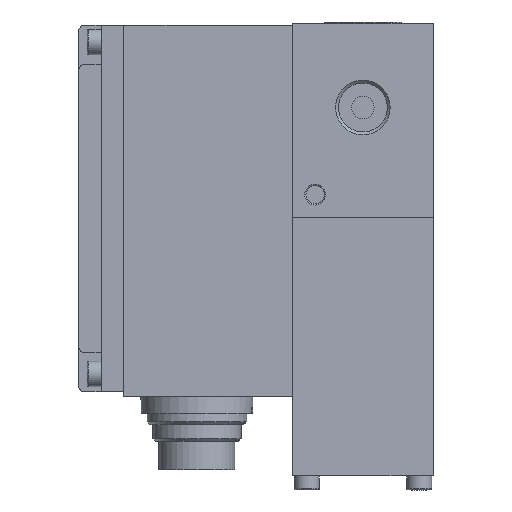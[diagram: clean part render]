
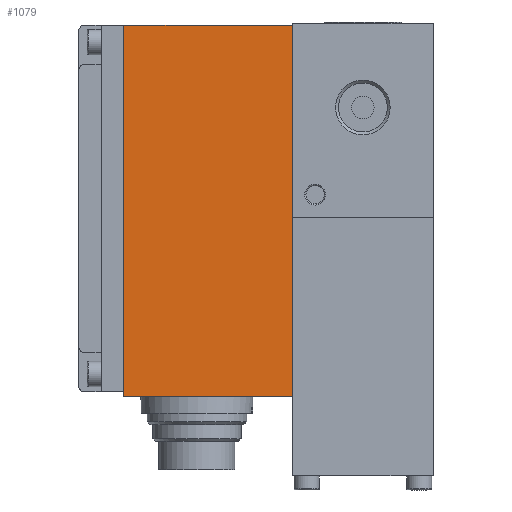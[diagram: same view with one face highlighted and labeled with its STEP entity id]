
A CAD part, left-side view. The second image highlights one B-rep face of the part: STEP entity #1079.
In plain terms, the highlighted planar face has unit normal (-1, 0, 0).
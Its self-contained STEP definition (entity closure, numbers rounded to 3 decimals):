
#1001=CARTESIAN_POINT('',(-17.5,30.0,-66.0));
#1002=VERTEX_POINT('',#1001);
#1009=CARTESIAN_POINT('',(-17.5,30.0,0.0));
#1010=VERTEX_POINT('',#1009);
#1011=CARTESIAN_POINT('',(-17.5,30.0,0.0));
#1012=DIRECTION('',(0.0,0.0,-1.0));
#1013=VECTOR('',#1012,66.0);
#1014=LINE('',#1011,#1013);
#1015=EDGE_CURVE('',#1010,#1002,#1014,.T.);
#1049=CARTESIAN_POINT('',(-17.5,30.0,0.0));
#1050=DIRECTION('',(-1.0,0.0,0.0));
#1051=DIRECTION('',(0.0,0.0,1.0));
#1052=AXIS2_PLACEMENT_3D('',#1049,#1050,#1051);
#1053=PLANE('',#1052);
#1054=CARTESIAN_POINT('',(-17.5,0.0,-66.0));
#1055=VERTEX_POINT('',#1054);
#1056=CARTESIAN_POINT('',(-17.5,30.0,-66.0));
#1057=DIRECTION('',(0.0,-1.0,0.0));
#1058=VECTOR('',#1057,30.0);
#1059=LINE('',#1056,#1058);
#1060=EDGE_CURVE('',#1002,#1055,#1059,.T.);
#1061=ORIENTED_EDGE('',*,*,#1060,.T.);
#1062=CARTESIAN_POINT('',(-17.5,0.0,0.0));
#1063=VERTEX_POINT('',#1062);
#1064=CARTESIAN_POINT('',(-17.5,0.0,0.0));
#1065=DIRECTION('',(0.0,0.0,-1.0));
#1066=VECTOR('',#1065,66.0);
#1067=LINE('',#1064,#1066);
#1068=EDGE_CURVE('',#1063,#1055,#1067,.T.);
#1069=ORIENTED_EDGE('',*,*,#1068,.F.);
#1070=CARTESIAN_POINT('',(-17.5,30.0,0.0));
#1071=DIRECTION('',(0.0,-1.0,0.0));
#1072=VECTOR('',#1071,30.0);
#1073=LINE('',#1070,#1072);
#1074=EDGE_CURVE('',#1010,#1063,#1073,.T.);
#1075=ORIENTED_EDGE('',*,*,#1074,.F.);
#1076=ORIENTED_EDGE('',*,*,#1015,.T.);
#1077=EDGE_LOOP('',(#1061,#1069,#1075,#1076));
#1078=FACE_OUTER_BOUND('',#1077,.T.);
#1079=ADVANCED_FACE('',(#1078),#1053,.T.);
